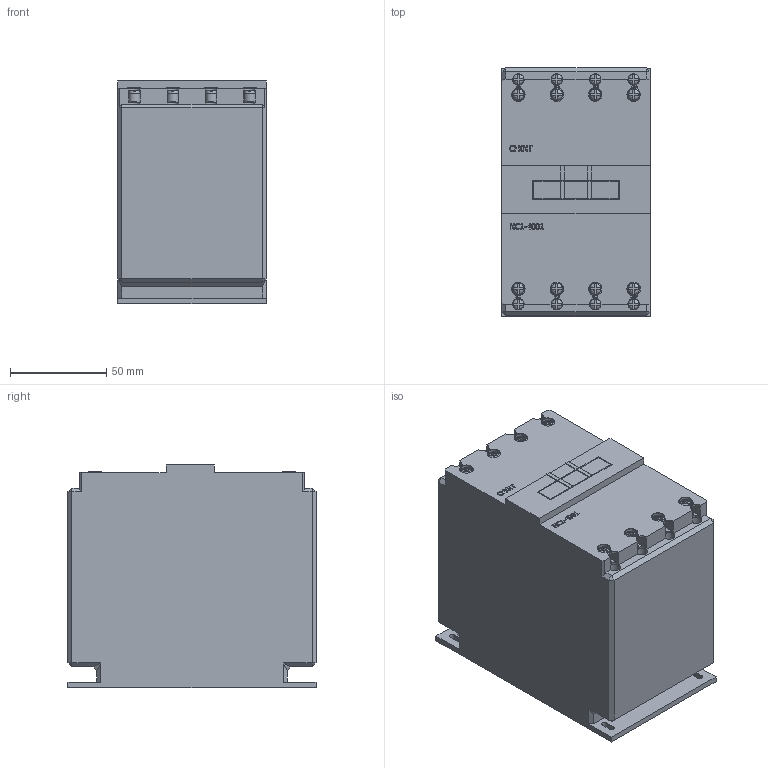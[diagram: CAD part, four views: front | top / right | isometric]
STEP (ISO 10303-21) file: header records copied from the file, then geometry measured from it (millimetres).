
FILE_DESCRIPTION(/* description */ (''),/* implementation_level */ '2;1');
FILE_NAME(/* name */ 'D:\CHINT2\NC1\NC1-4001 230В 50.stp',/* time_stamp */ '2017-11-12T20:24:31+03:00',/* author */ ('RSagdiev'),/* organization */ (''),/* preprocessor_version */ 'ST-DEVELOPER v16.5',/* originating_system */ 'Autodesk Inventor 2017',/* authorisation */ '');
FILE_SCHEMA (('AUTOMOTIVE_DESIGN { 1 0 10303 214 3 1 1 }'));
Length unit declared in the file: millimetre
Products named in the file (1): NC1-4001 230В 50
Bounding box: 77 x 129 x 116.5 mm (x, y, z)
Volume: 1088356.1 mm3; surface area: 77051 mm2
Topology: 22 solids, 22 shells, 1474 faces, 3964 edges, 2612 vertices
Faces by surface type: plane 1035, bspline 383, cylinder 48, torus 8
Full cylindrical faces by diameter (mm): 5.8 x8, 6 x16
Entity records: 49546 total; most frequent: CARTESIAN_POINT 15173, ORIENTED_EDGE 7850, DIRECTION 5595, EDGE_CURVE 3925, LINE 2705, VECTOR 2705, VERTEX_POINT 2605, EDGE_LOOP 1608
